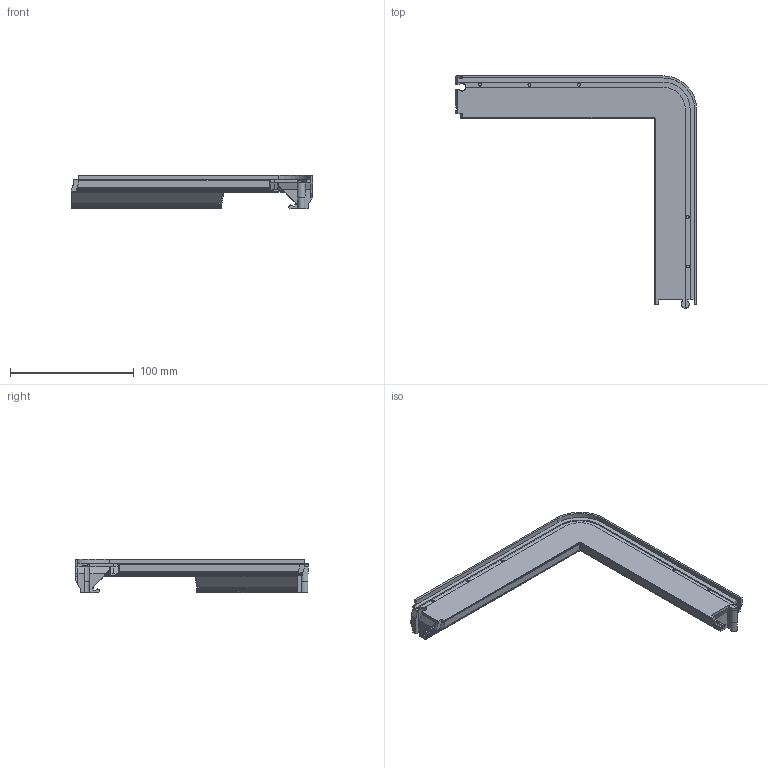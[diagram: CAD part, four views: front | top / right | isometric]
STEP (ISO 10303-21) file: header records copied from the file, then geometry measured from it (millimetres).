
FILE_DESCRIPTION(('Open CASCADE Model'),'2;1');
FILE_NAME('Open CASCADE Shape Model','2026-10-27T10:01:10',('Author'),( 'Open CASCADE'),'Open CASCADE STEP processor 8.0','build123d', 'Unknown');
FILE_SCHEMA(('AUTOMOTIVE_DESIGN { 1 0 10303 214 1 1 1 1 }'));
Products named in the file (1): SOLID
Bounding box: 195.1 x 187.9 x 27.4 mm (x, y, z)
Volume: 148591.3 mm3; surface area: 44481.9 mm2
Topology: 1 solids, 1 shells, 957 faces, 2188 edges, 1239 vertices
Faces by surface type: bspline 633, plane 303, cylinder 13, cone 8
Full cylindrical faces by diameter (mm): 2.4 x5
Entity records: 53168 total; most frequent: CARTESIAN_POINT 13965, DIRECTION 5241, ORIENTED_EDGE 4376, PCURVE 4376, DEFINITIONAL_REPRESENTATION 4376, LINE 4306, VECTOR 4306, EDGE_CURVE 2188
